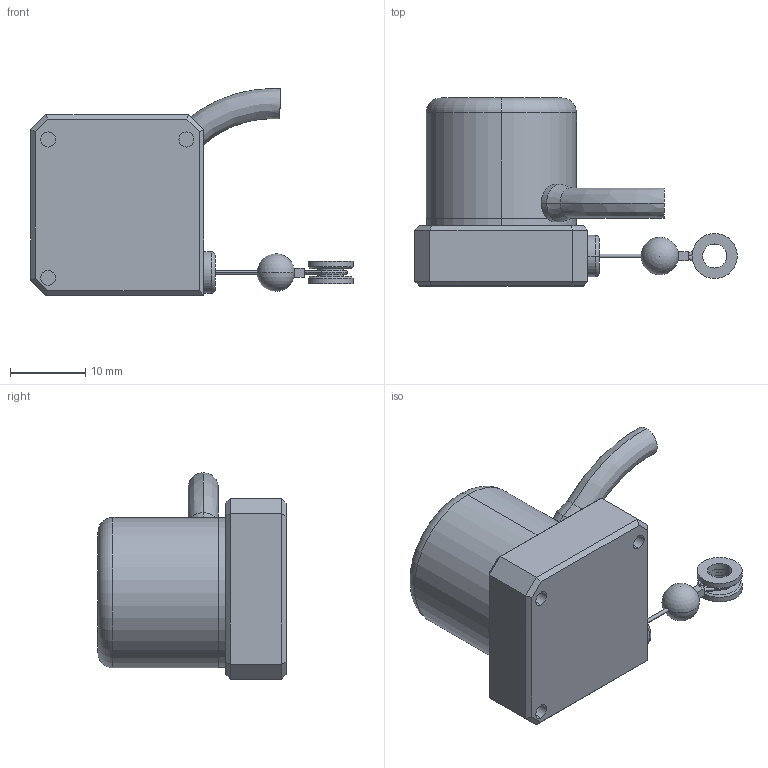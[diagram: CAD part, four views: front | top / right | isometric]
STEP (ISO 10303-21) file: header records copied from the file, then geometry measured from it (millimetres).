
FILE_DESCRIPTION (( 'STEP AP214' ), '1' );
FILE_NAME ('DS-025_DX-025_Assem1.STEP', '2025-01-28T01:02:47', ( '' ), ( '' ), 'SwSTEP 2.0', 'SolidWorks 2023', '' );
FILE_SCHEMA (( 'AUTOMOTIVE_DESIGN' ));
Length unit declared in the file: millimetre
Products named in the file (4): DS-025_DX-025_Assem1; DS_DX_Part1; DS_DX_Part2; DS_DX_Part3
Assembly tree (3 placements, depth 2):
  DS-025_DX-025_Assem1
    DS_DX_Part1
    DS_DX_Part2
    DS_DX_Part3
Bounding box: 42.86 x 25 x 27.43 mm (x, y, z)
Volume: 9943 mm3; surface area: 3428.6 mm2
Topology: 6 solids, 6 shells, 96 faces, 206 edges, 125 vertices
Faces by surface type: plane 44, cylinder 32, torus 10, cone 6, bspline 2, sphere 2
Entity records: 2847 total; most frequent: CARTESIAN_POINT 577, DIRECTION 489, ORIENTED_EDGE 404, EDGE_CURVE 202, AXIS2_PLACEMENT_3D 195, VERTEX_POINT 123, EDGE_LOOP 107, LINE 99
